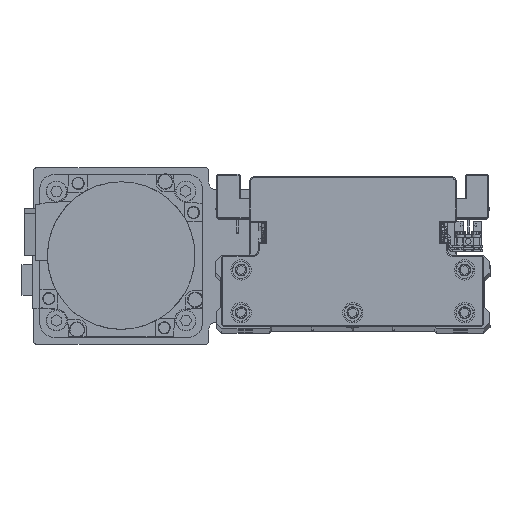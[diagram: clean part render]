
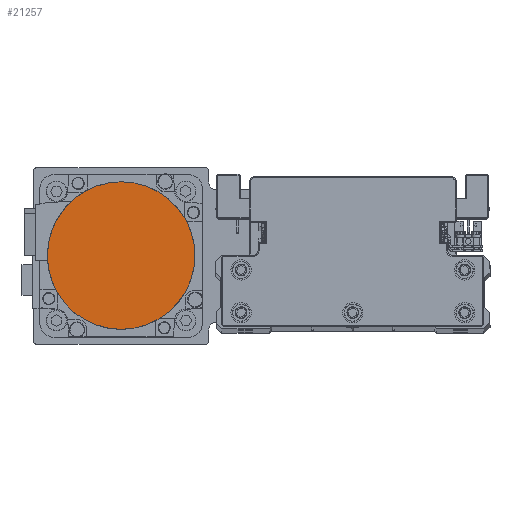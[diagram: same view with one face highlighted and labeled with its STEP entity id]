
A CAD part, top view. The second image highlights one B-rep face of the part: STEP entity #21257.
In plain terms, the highlighted planar face has unit normal (0, 0, 1) as drawn and (0, 0, -1) by its records, which use the part's own axes.
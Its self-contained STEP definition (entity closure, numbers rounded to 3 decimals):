
#1229 = DIRECTION ( 'NONE',  ( 0., 0., 1. ) ) ;
#2192 = FACE_OUTER_BOUND ( 'NONE', #20310, .T. ) ;
#5673 = ORIENTED_EDGE ( 'NONE', *, *, #22274, .F. ) ;
#6752 = DIRECTION ( 'NONE',  ( 0., 0., 1. ) ) ;
#11656 = DIRECTION ( 'NONE',  ( 1., 0., 0. ) ) ;
#12196 = AXIS2_PLACEMENT_3D ( 'NONE', #27258, #39796, #11656 ) ;
#12604 = CIRCLE ( 'NONE', #35565, 36.3 ) ;
#12825 = VERTEX_POINT ( 'NONE', #38506 ) ;
#13764 = DIRECTION ( 'NONE',  ( 0., 1., 0. ) ) ;
#14738 = PLANE ( 'NONE',  #12196 ) ;
#19294 = DIRECTION ( 'NONE',  ( 0., -1., 0. ) ) ;
#20310 = EDGE_LOOP ( 'NONE', ( #31947, #5673 ) ) ;
#21257 = ADVANCED_FACE ( 'NONE', ( #2192 ), #14738, .F. ) ;
#22116 = AXIS2_PLACEMENT_3D ( 'NONE', #34917, #6752, #19294 ) ;
#22274 = EDGE_CURVE ( 'NONE', #25480, #12825, #39815, .T. ) ;
#25215 = EDGE_CURVE ( 'NONE', #12825, #25480, #12604, .T. ) ;
#25480 = VERTEX_POINT ( 'NONE', #34281 ) ;
#27258 = CARTESIAN_POINT ( 'NONE',  ( 0., 0., -122.2 ) ) ;
#29382 = CARTESIAN_POINT ( 'NONE',  ( 0., 0., -122.2 ) ) ;
#31947 = ORIENTED_EDGE ( 'NONE', *, *, #25215, .F. ) ;
#34281 = CARTESIAN_POINT ( 'NONE',  ( 0., -36.3, -122.2 ) ) ;
#34917 = CARTESIAN_POINT ( 'NONE',  ( 0., 0., -122.2 ) ) ;
#35565 = AXIS2_PLACEMENT_3D ( 'NONE', #29382, #1229, #13764 ) ;
#38506 = CARTESIAN_POINT ( 'NONE',  ( 0., 36.3, -122.2 ) ) ;
#39796 = DIRECTION ( 'NONE',  ( 0., 0., 1. ) ) ;
#39815 = CIRCLE ( 'NONE', #22116, 36.3 ) ;
